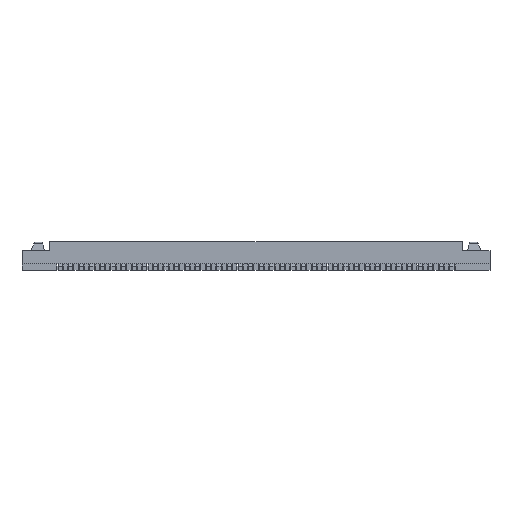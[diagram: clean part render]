
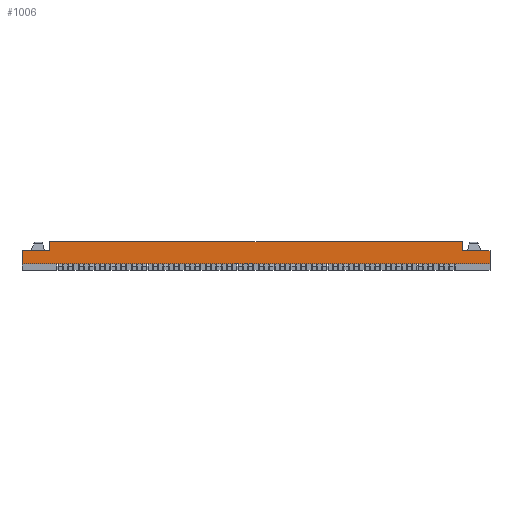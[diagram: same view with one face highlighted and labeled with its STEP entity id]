
A CAD part, front view. The second image highlights one B-rep face of the part: STEP entity #1006.
In plain terms, the highlighted planar face has unit normal (0, -1, 0).
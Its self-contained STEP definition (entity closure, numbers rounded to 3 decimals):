
#399=CARTESIAN_POINT('Vertex',(-9.75,-2.4,0.92)) ;
#402=CARTESIAN_POINT('Line Origine',(-9.75,-2.4,1.135)) ;
#406=CARTESIAN_POINT('Vertex',(-9.75,-2.4,1.35)) ;
#944=CARTESIAN_POINT('Axis2P3D Location',(0.,-2.4,0.3)) ;
#949=CARTESIAN_POINT('Line Origine',(-10.4,-2.4,0.92)) ;
#953=CARTESIAN_POINT('Vertex',(-11.05,-2.4,0.92)) ;
#956=CARTESIAN_POINT('Line Origine',(-11.05,-2.4,0.61)) ;
#960=CARTESIAN_POINT('Vertex',(-11.05,-2.4,0.3)) ;
#963=CARTESIAN_POINT('Line Origine',(0.,-2.4,0.3)) ;
#967=CARTESIAN_POINT('Vertex',(11.05,-2.4,0.3)) ;
#970=CARTESIAN_POINT('Line Origine',(11.05,-2.4,0.61)) ;
#974=CARTESIAN_POINT('Vertex',(11.05,-2.4,0.92)) ;
#977=CARTESIAN_POINT('Line Origine',(10.4,-2.4,0.92)) ;
#981=CARTESIAN_POINT('Vertex',(9.75,-2.4,0.92)) ;
#984=CARTESIAN_POINT('Line Origine',(9.75,-2.4,1.135)) ;
#988=CARTESIAN_POINT('Vertex',(9.75,-2.4,1.35)) ;
#991=CARTESIAN_POINT('Line Origine',(0.,-2.4,1.35)) ;
#403=DIRECTION('Vector Direction',(0.,0.,-1.)) ;
#945=DIRECTION('Axis2P3D Direction',(0.,1.,0.)) ;
#946=DIRECTION('Axis2P3D XDirection',(0.,0.,1.)) ;
#950=DIRECTION('Vector Direction',(1.,0.,0.)) ;
#957=DIRECTION('Vector Direction',(0.,0.,1.)) ;
#964=DIRECTION('Vector Direction',(1.,0.,0.)) ;
#971=DIRECTION('Vector Direction',(0.,0.,1.)) ;
#978=DIRECTION('Vector Direction',(-1.,0.,0.)) ;
#985=DIRECTION('Vector Direction',(0.,0.,-1.)) ;
#992=DIRECTION('Vector Direction',(1.,0.,0.)) ;
#947=AXIS2_PLACEMENT_3D('Plane Axis2P3D',#944,#945,#946) ;
#997=ORIENTED_EDGE('',*,*,#408,.T.) ;
#998=ORIENTED_EDGE('',*,*,#955,.F.) ;
#999=ORIENTED_EDGE('',*,*,#962,.T.) ;
#1000=ORIENTED_EDGE('',*,*,#969,.T.) ;
#1001=ORIENTED_EDGE('',*,*,#976,.F.) ;
#1002=ORIENTED_EDGE('',*,*,#983,.T.) ;
#1003=ORIENTED_EDGE('',*,*,#990,.F.) ;
#1004=ORIENTED_EDGE('',*,*,#995,.F.) ;
#404=VECTOR('Line Direction',#403,1.) ;
#951=VECTOR('Line Direction',#950,1.) ;
#958=VECTOR('Line Direction',#957,1.) ;
#965=VECTOR('Line Direction',#964,1.) ;
#972=VECTOR('Line Direction',#971,1.) ;
#979=VECTOR('Line Direction',#978,1.) ;
#986=VECTOR('Line Direction',#985,1.) ;
#993=VECTOR('Line Direction',#992,1.) ;
#1006=ADVANCED_FACE('\X2\96F64EF651E04F554F53\X0\',(#1005),#948,.F.) ;
#408=EDGE_CURVE('',#407,#400,#405,.T.) ;
#955=EDGE_CURVE('',#954,#400,#952,.T.) ;
#962=EDGE_CURVE('',#954,#961,#959,.F.) ;
#969=EDGE_CURVE('',#961,#968,#966,.T.) ;
#976=EDGE_CURVE('',#975,#968,#973,.F.) ;
#983=EDGE_CURVE('',#975,#982,#980,.T.) ;
#990=EDGE_CURVE('',#989,#982,#987,.T.) ;
#995=EDGE_CURVE('',#407,#989,#994,.T.) ;
#996=EDGE_LOOP('',(#997,#998,#999,#1000,#1001,#1002,#1003,#1004)) ;
#1005=FACE_OUTER_BOUND('',#996,.T.) ;
#405=LINE('Line',#402,#404) ;
#952=LINE('Line',#949,#951) ;
#959=LINE('Line',#956,#958) ;
#966=LINE('Line',#963,#965) ;
#973=LINE('Line',#970,#972) ;
#980=LINE('Line',#977,#979) ;
#987=LINE('Line',#984,#986) ;
#994=LINE('Line',#991,#993) ;
#948=PLANE('Plane',#947) ;
#400=VERTEX_POINT('',#399) ;
#407=VERTEX_POINT('',#406) ;
#954=VERTEX_POINT('',#953) ;
#961=VERTEX_POINT('',#960) ;
#968=VERTEX_POINT('',#967) ;
#975=VERTEX_POINT('',#974) ;
#982=VERTEX_POINT('',#981) ;
#989=VERTEX_POINT('',#988) ;
